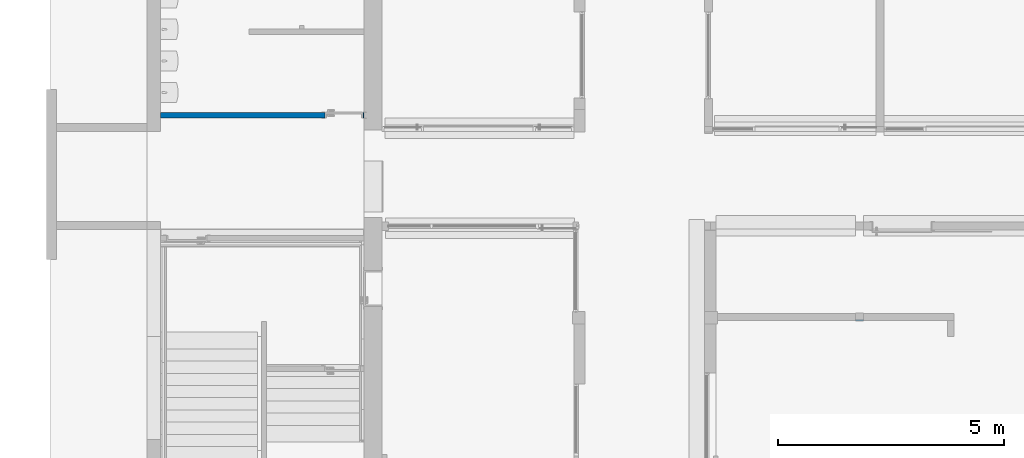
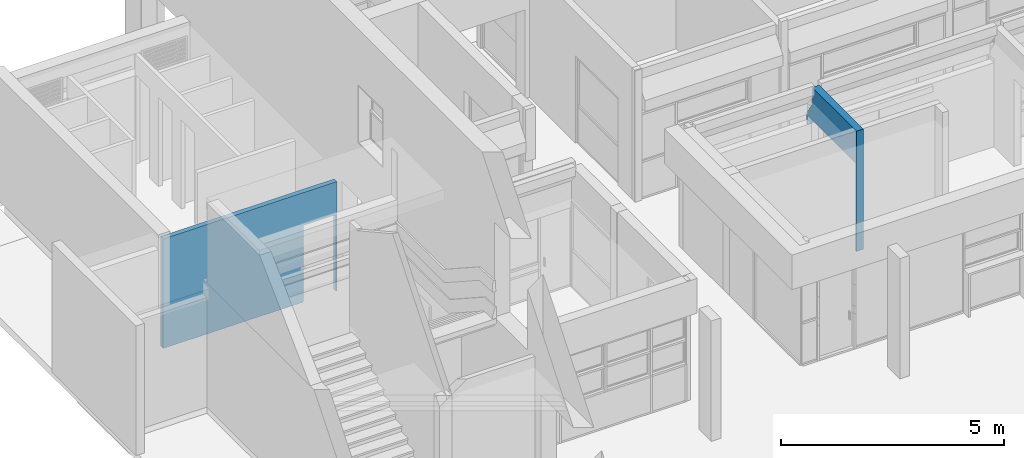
# One storey, part 84 of 117: 2 walls, 4 openings.
"""IFC4 building model written with IfcOpenShell, lengths in metres."""

from ifc_helpers import new_model, entity, si_unit, converted_unit, derived_unit, direction, frame, origin, place, context, subcontext, project, spatial, indexed_curve, outline, extrude, polygons, material, type_object, element, save


model = new_model("IFC4")

# Units and contexts
model_context = context("Model", 3, precision=1e-05, world=origin(), true_north=direction((6.123031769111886e-17, 1.0)))
body_context = subcontext(model_context, "Body", "Model", "MODEL_VIEW")
ifc_project = project(units=[si_unit("LENGTHUNIT", "METRE"), si_unit("AREAUNIT", "SQUARE_METRE"), si_unit("VOLUMEUNIT", "CUBIC_METRE"), converted_unit("PLANEANGLEUNIT", "DEGREE", entity("IfcRatioMeasure", 0.017453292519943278), si_unit("PLANEANGLEUNIT", "RADIAN"), dimensions=[0, 0, 0, 0, 0, 0, 0]), si_unit("MASSUNIT", "GRAM", prefix="KILO"), derived_unit("MASSDENSITYUNIT", [(si_unit("MASSUNIT", "GRAM", prefix="KILO"), 1), (si_unit("LENGTHUNIT", "METRE"), -3)]), derived_unit("MOMENTOFINERTIAUNIT", [(si_unit("LENGTHUNIT", "METRE"), 4)]), si_unit("TIMEUNIT", "SECOND"), si_unit("FREQUENCYUNIT", "HERTZ"), si_unit("THERMODYNAMICTEMPERATUREUNIT", "DEGREE_CELSIUS"), derived_unit("THERMALTRANSMITTANCEUNIT", [(si_unit("MASSUNIT", "GRAM", prefix="KILO"), 1), (si_unit("THERMODYNAMICTEMPERATUREUNIT", "KELVIN"), -1), (si_unit("TIMEUNIT", "SECOND"), -3)]), derived_unit("VOLUMETRICFLOWRATEUNIT", [(si_unit("LENGTHUNIT", "METRE"), 3), (si_unit("TIMEUNIT", "SECOND"), -1)]), derived_unit("MASSFLOWRATEUNIT", [(si_unit("MASSUNIT", "GRAM", prefix="KILO"), 1), (si_unit("TIMEUNIT", "SECOND"), -1)]), derived_unit("ROTATIONALFREQUENCYUNIT", [(si_unit("TIMEUNIT", "SECOND"), -1)]), si_unit("ELECTRICCURRENTUNIT", "AMPERE"), si_unit("ELECTRICVOLTAGEUNIT", "VOLT"), si_unit("POWERUNIT", "WATT"), si_unit("FORCEUNIT", "NEWTON", prefix="KILO"), si_unit("ILLUMINANCEUNIT", "LUX"), si_unit("LUMINOUSFLUXUNIT", "LUMEN"), si_unit("LUMINOUSINTENSITYUNIT", "CANDELA"), derived_unit("USERDEFINED", [(si_unit("MASSUNIT", "GRAM", prefix="KILO"), -1), (si_unit("LENGTHUNIT", "METRE"), -2), (si_unit("TIMEUNIT", "SECOND"), 3), (si_unit("LUMINOUSFLUXUNIT", "LUMEN"), 1)]), derived_unit("SOUNDPOWERUNIT", [(si_unit("MASSUNIT", "GRAM", prefix="KILO"), 1), (si_unit("LENGTHUNIT", "METRE"), 2), (si_unit("TIMEUNIT", "SECOND"), -3)]), derived_unit("SOUNDPRESSUREUNIT", [(si_unit("MASSUNIT", "GRAM", prefix="KILO"), 1), (si_unit("LENGTHUNIT", "METRE"), -1), (si_unit("TIMEUNIT", "SECOND"), -2)]), derived_unit("LINEARVELOCITYUNIT", [(si_unit("LENGTHUNIT", "METRE"), 1), (si_unit("TIMEUNIT", "SECOND"), -1)]), si_unit("PRESSUREUNIT", "PASCAL"), derived_unit("USERDEFINED", [(si_unit("LENGTHUNIT", "METRE"), -2), (si_unit("MASSUNIT", "GRAM", prefix="KILO"), 1), (si_unit("TIMEUNIT", "SECOND"), -2)]), derived_unit("LINEARFORCEUNIT", [(si_unit("MASSUNIT", "GRAM", prefix="KILO"), 1), (si_unit("LENGTHUNIT", "METRE"), 1), (si_unit("TIMEUNIT", "SECOND"), -2), (si_unit("LENGTHUNIT", "METRE"), -1)]), derived_unit("PLANARFORCEUNIT", [(si_unit("MASSUNIT", "GRAM", prefix="KILO"), 1), (si_unit("LENGTHUNIT", "METRE"), 1), (si_unit("TIMEUNIT", "SECOND"), -2), (si_unit("LENGTHUNIT", "METRE"), -2)])], contexts=[model_context])

# Site, building, storey
site_placement = place(None, origin())
site = spatial("IfcSite", under=ifc_project, at=site_placement, Name="Superficie", CompositionType="ELEMENT")
building_placement = place(site_placement, origin())
building = spatial("IfcBuilding", under=site, at=building_placement, CompositionType="ELEMENT")
storey_placement = place(building_placement, origin())
storey = spatial("IfcBuildingStorey", under=building, at=storey_placement, Name="Nivel 0", CompositionType="ELEMENT", Elevation=0.0)

# Wall, openings
ifc_material = material(Name="Muro por defecto", Category="Varios")
wall_type_1 = type_object("IfcWallType", Name="Muro básico:Por defecto - 18 cm 2", PredefinedType="STANDARD")
wall_1_placement = place(storey_placement, frame((-12.072403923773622, 1.4708292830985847, 0.0), z_axis=(0.0, 0.0, 1.0), x_axis=(0.0, 1.0, 0.0)))
wall_1 = element("IfcWall", 1, at=wall_1_placement, inside=storey, type_object=wall_type_1, material=ifc_material, Name="Muro básico:Por defecto - 18 cm 2", ObjectType="Muro básico:Por defecto - 18 cm 2", PredefinedType="NOTDEFINED", context=body_context, shape_type="Tessellation", body=[
    polygons([(1.9861992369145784, -0.0900000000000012, 3.3), (0.0, -0.0900000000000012, 3.3), (0.0, -0.0900000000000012, 0.0), (0.0362154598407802, -0.0900000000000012, 0.0), (0.0362154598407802, -0.0900000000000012, 2.4), (2.1950000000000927, -0.0900000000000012, 2.4), (2.1950000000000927, -0.0900000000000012, 2.150000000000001), (2.2551154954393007, -0.0900000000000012, 2.150000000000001), (2.2551154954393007, -0.0900000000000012, 2.44), (1.9861992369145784, -0.0900000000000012, 2.8365220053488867), (0.0, 0.08999999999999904, 3.3), (1.9861992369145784, 0.08999999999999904, 3.3), (1.9861992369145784, 0.08999999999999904, 2.8365220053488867), (2.2551154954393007, 0.08999999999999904, 2.44), (2.2551154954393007, 0.08999999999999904, 2.150000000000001), (2.195000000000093, 0.08999999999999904, 2.150000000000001), (2.195000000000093, 0.08999999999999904, 2.4), (0.0362154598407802, 0.08999999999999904, 2.4), (0.0362154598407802, 0.08999999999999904, 0.0), (0.0, 0.08999999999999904, 0.0)], [[[1, 2, 3, 4, 5, 6, 7, 8, 9, 10]], [[11, 12, 13, 14, 15, 16, 17, 18, 19, 20]], [[5, 18, 17, 6]], [[18, 5, 4, 19]], [[3, 20, 19, 4]], [[2, 1, 12, 11]], [[3, 2, 11, 20]], [[8, 7, 16, 15]], [[9, 8, 15, 14]], [[10, 9, 14, 13]], [[1, 10, 13, 12]], [[6, 17, 16, 7]]], closed=True),
])
opening_1_placement = place(wall_1_placement, origin())
element("IfcOpeningElement", 2, at=opening_1_placement, cuts=wall_1, Name="Muro básico:Por defecto - 18 cm 2", PredefinedType="OPENING", context=body_context, shape_type="SweptSolid", body=[
    extrude(outline(indexed_curve([(-1.3798513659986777, -1.0343922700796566), (1.3798513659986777, -1.0343922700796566), (1.3798513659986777, 1.0343922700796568), (-1.3798513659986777, 1.0343922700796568), (-1.3798513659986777, -1.0343922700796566)], self_intersect=False)), frame((1.070607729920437, -0.08999999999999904, 1.0201486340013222), z_axis=(0.0, 1.0, 0.0), x_axis=(0.0, 0.0, -1.0)), (0.0, 0.0, 1.0), 0.17999999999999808),
])
opening_2_placement = place(wall_1_placement, origin())
element("IfcOpeningElement", 3, at=opening_2_placement, cuts=wall_1, Name="Muro básico:Por defecto - 18 cm 2", PredefinedType="OPENING", context=body_context, shape_type="SweptSolid", body=[
    extrude(outline(indexed_curve([(-0.07505774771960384, -1.0750000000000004), (0.07505774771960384, -1.0750000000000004), (0.07505774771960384, 1.0750000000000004), (-0.07505774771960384, 1.0750000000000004), (-0.07505774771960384, -1.0750000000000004)], self_intersect=False)), frame((2.1800577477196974, 0.08999999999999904, 1.0750000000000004), z_axis=(0.0, -1.0, 0.0), x_axis=(1.0, 0.0, 0.0)), (0.0, 0.0, 1.0), 0.18),
])
opening_3_placement = place(wall_1_placement, origin())
element("IfcOpeningElement", 4, at=opening_3_placement, cuts=wall_1, Name="Muro básico:Por defecto - 18 cm 2", PredefinedType="OPENING", context=body_context, shape_type="SweptSolid", body=[
    extrude(outline(indexed_curve([(-0.5291305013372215, -0.13445812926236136), (0.3308694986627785, -0.13445812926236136), (0.3308694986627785, 0.13445812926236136), (-0.13260849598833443, 0.13445812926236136), (-0.5291305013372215, -0.13445812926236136)], self_intersect=False)), frame((2.12065736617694, 0.08999999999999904, 2.9691305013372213), z_axis=(0.0, -1.0, 0.0), x_axis=(0.0, 0.0, 1.0)), (0.0, 0.0, 1.0), 0.18),
])

# Wall, opening
wall_type_2 = type_object("IfcWallType", Name="Muro básico:Por defecto - 12 cm 2", PredefinedType="STANDARD")
wall_2_placement = place(storey_placement, frame((-27.54320098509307, 6.030829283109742, 0.0)))
wall_2 = element("IfcWall", 5, at=wall_2_placement, inside=storey, type_object=wall_type_2, material=ifc_material, Name="Muro básico:Por defecto - 12 cm 2", ObjectType="Muro básico:Por defecto - 12 cm 2", PredefinedType="NOTDEFINED", context=body_context, shape_type="Tessellation", body=[
    polygons([(4.499999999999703, -0.05999999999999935, 0.0), (4.499999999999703, -0.05999999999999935, 2.9999999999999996), (-1.3525685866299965e-15, -0.05999999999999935, 2.9999999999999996), (-1.3525685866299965e-15, -0.05999999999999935, 0.0), (3.63499999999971, -0.05999999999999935, 0.0), (3.63499999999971, -0.05999999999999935, 2.099999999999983), (4.484999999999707, -0.05999999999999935, 2.099999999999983), (4.484999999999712, -0.05999999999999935, 0.0), (4.499999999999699, 0.060000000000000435, 3.0000000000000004), (4.499999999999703, 0.060000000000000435, 0.0), (4.484999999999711, 0.060000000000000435, 0.0), (4.484999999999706, 0.060000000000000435, 2.099999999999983), (3.6349999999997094, 0.060000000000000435, 2.099999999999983), (3.6349999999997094, 0.060000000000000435, 0.0), (-1.7279625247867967e-15, 0.060000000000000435, 0.0), (-1.7279625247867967e-15, 0.060000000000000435, 2.9999999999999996)], [[[1, 2, 3, 4, 5, 6, 7, 8]], [[9, 10, 11, 12, 13, 14, 15, 16]], [[4, 15, 14, 5]], [[2, 1, 10, 9]], [[3, 2, 9, 16]], [[4, 3, 16, 15]], [[7, 12, 11, 8]], [[12, 7, 6, 13]], [[13, 6, 5, 14]], [[10, 1, 8, 11]]], closed=True),
])
opening_4_placement = place(wall_2_placement, frame((3.6349999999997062, -0.06000000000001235, 0.0)))
element("IfcOpeningElement", 6, at=opening_4_placement, cuts=wall_2, Name="Puerta de 1 hoja:85 x 210 cm 2:1", PredefinedType="OPENING", context=body_context, shape_type="SweptSolid", body=[
    extrude(outline(indexed_curve([(0.0, 0.8500000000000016), (0.0, 0.0), (2.099999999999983, 0.0), (2.099999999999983, 0.8500000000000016), (0.0, 0.8500000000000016)], self_intersect=False)), frame((0.0, 0.0, 0.0), z_axis=(0.0, 1.0, 0.0), x_axis=(0.0, 0.0, 1.0)), (0.0, 0.0, 1.0), 0.12),
])

save(model, "model.ifc")
